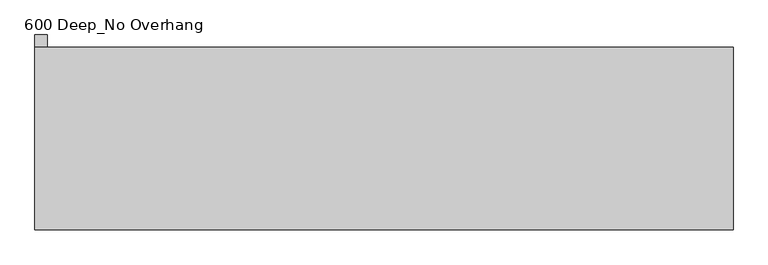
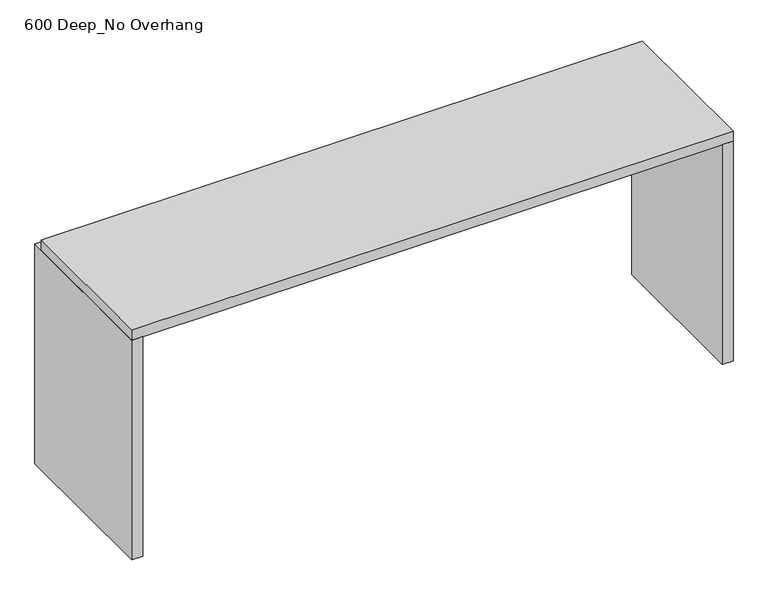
"""IFC4 building model written with IfcOpenShell, lengths in millimetres: furniture geometry, Benchtop_Optional Hole_I Shaped_CAS : 600 Deep_No Overhang."""

from ifc_helpers import new_model, si_unit, frame, origin, origin_with_axes, place, context, project, spatial, polyline, outline, extrude, source, transform, mapped, element, save


def furniture_600_deep_no_overhang_670f2303(model_context):
    return source(origin(), model_context, "Body", "SweptSolid", [
        extrude(outline(polyline([(1029.7003264, -580.8710964), (1029.7003264, 0.0), (1069.7003264, 0.0), (1069.7003264, -580.8710964), (1029.7003264, -580.8710964)])), origin_with_axes(), (0.0, 0.0, 1.0), 860.0),
        extrude(outline(polyline([(-1115.2996736, 40.0), (-1115.2996736, -580.8710964), (-1155.2996736, -580.8710964), (-1155.2996736, 40.0), (-1115.2996736, 40.0)])), origin_with_axes(), (0.0, 0.0, 1.0), 860.0),
        extrude(outline(polyline([(1069.7003264, 0.0), (1069.7003264, -580.8710964), (-1155.2996736, -580.8710964), (-1155.2996736, 0.0), (1069.7003264, 0.0)])), frame((0.0, 0.0, 860.0), z_axis=(0.0, 0.0, 1.0), x_axis=(1.0, 0.0, 0.0)), (0.0, 0.0, 1.0), 40.0),
    ])


if __name__ == "__main__":
    model = new_model("IFC4")
    model_context = context("Model", 3, world=origin())
    ifc_project = project(units=[si_unit("LENGTHUNIT", "METRE", prefix="MILLI")], contexts=[model_context])
    site = spatial("IfcSite", under=ifc_project)
    building = spatial("IfcBuilding", under=site)
    placement = place(None, origin())
    furniture_600_deep_no_overhang_shape = furniture_600_deep_no_overhang_670f2303(model_context)
    element("IfcFurniture", 1, ObjectType="Benchtop_Optional Hole_I Shaped_CAS : 600 Deep_No Overhang", at=placement, inside=building, context=model_context, shape_type="MappedRepresentation", body=[
        mapped(furniture_600_deep_no_overhang_shape, transform((0.0, 0.0, 0.0), x_axis=(1.0, 0.0, 0.0), y_axis=(0.0, 1.0, 0.0), z_axis=(0.0, 0.0, 1.0))),
    ])
    save(model, "model.ifc")
